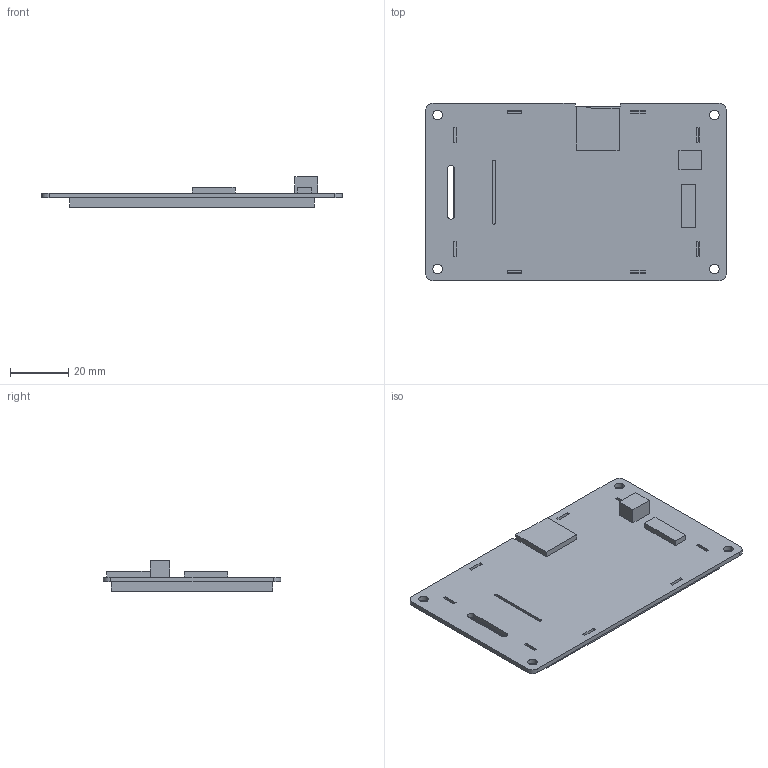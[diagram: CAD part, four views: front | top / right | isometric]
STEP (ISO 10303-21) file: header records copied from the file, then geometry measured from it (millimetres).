
FILE_DESCRIPTION((''),'2;1');
FILE_NAME('3D-DMT48320C035-07WTC','2018-12-07T',('Administrator'),(''),'PRO/ENGINEER BY PARAMETRIC TECHNOLOGY CORPORATION, 2011310','PRO/ENGINEER BY PARAMETRIC TECHNOLOGY CORPORATION, 2011310','');
FILE_SCHEMA(('CONFIG_CONTROL_DESIGN','SHAPE_APPEARANCE_LAYERS_GROUPS'));
Length unit declared in the file: millimetre
Products named in the file (1): 3D-DMT48320C035-07WTC
Bounding box: 103.25 x 61.09 x 10.4 mm (x, y, z)
Volume: 24142.4 mm3; surface area: 14630 mm2
Topology: 1 solids, 1 shells, 99 faces, 312 edges, 216 vertices
Faces by surface type: plane 83, cylinder 16
Entity records: 4270 total; most frequent: CARTESIAN_POINT 595, ORIENTED_EDGE 564, DIRECTION 548, EDGE_CURVE 282, VECTOR 278, LINE 278, VERTEX_POINT 182, AXIS2_PLACEMENT_3D 135
